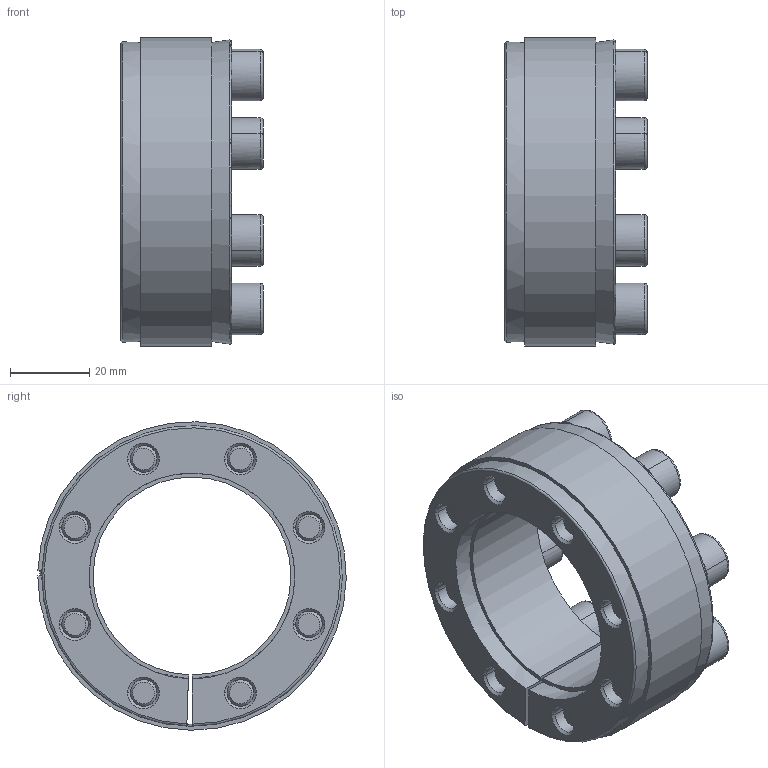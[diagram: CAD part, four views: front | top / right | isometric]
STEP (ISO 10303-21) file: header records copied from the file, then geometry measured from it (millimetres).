
FILE_DESCRIPTION((''),'2;1');
FILE_NAME('398-018-0050','2024-02-19T',('Brieden'),('Brieden'),'PRO/ENGINEER BY PARAMETRIC TECHNOLOGY CORPORATION, 2010160','PRO/ENGINEER BY PARAMETRIC TECHNOLOGY CORPORATION, 2010160','');
FILE_SCHEMA(('AUTOMOTIVE_DESIGN { 1 0 10303 214 1 1 1 1 }'));
Length unit declared in the file: millimetre
Products named in the file (1): 398-018-0050
Bounding box: 36 x 77.99 x 77.99 mm (x, y, z)
Volume: 68375 mm3; surface area: 43685.8 mm2
Topology: 2 solids, 10 shells, 263 faces, 635 edges, 402 vertices
Faces by surface type: plane 101, cylinder 90, cone 54, torus 18
Entity records: 9870 total; most frequent: DIRECTION 1492, CARTESIAN_POINT 1303, ORIENTED_EDGE 1238, PRESENTATION_STYLE_ASSIGNMENT 651, STYLED_ITEM 645, CURVE_STYLE 635, EDGE_CURVE 635, AXIS2_PLACEMENT_3D 591
